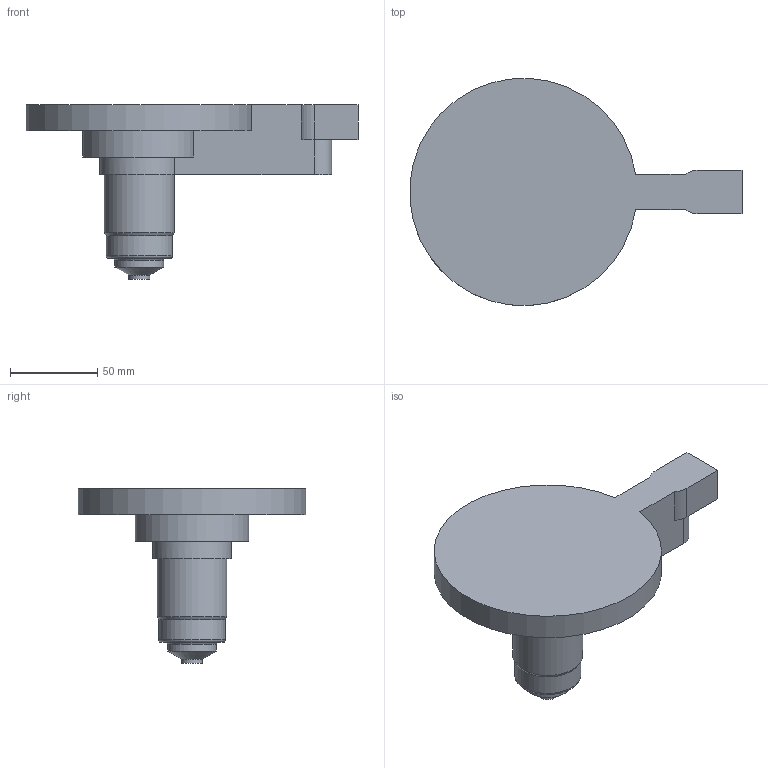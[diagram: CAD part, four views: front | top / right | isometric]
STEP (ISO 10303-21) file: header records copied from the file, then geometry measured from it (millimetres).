
FILE_DESCRIPTION( ( 'STEP AP214' ), '1' );
FILE_NAME( 'S:/PROIECTE_YUDO_2010/PROIECTE YUDO 2010 3D/BLS/YUEU10-BLS25CF070/YUEU10-BLS25CF070cutout.step', '2010-02-09T09:45:36', ( ' ' ), ( ' ' ), 'XStep 1.0', ' ', ' ' );
FILE_SCHEMA( ( 'automotive_design' ) );
Length unit declared in the file: millimetre
Products named in the file (1): 1
Bounding box: 189.76 x 129.83 x 100 mm (x, y, z)
Volume: 390972.3 mm3; surface area: 52696.9 mm2
Topology: 1 solids, 1 shells, 29 faces, 67 edges, 43 vertices
Faces by surface type: plane 13, cylinder 11, cone 3, torus 2
Full cylindrical faces by diameter (mm): 12 x1, 28 x1, 38 x1, 40 x1, 44.998 x1
Entity records: 1006 total; most frequent: DIRECTION 140, CARTESIAN_POINT 126, ORIENTED_EDGE 110, AXIS2_PLACEMENT_3D 55, EDGE_CURVE 55, EDGE_LOOP 42, VERTEX_POINT 41, FACE_OUTER_BOUND 36
